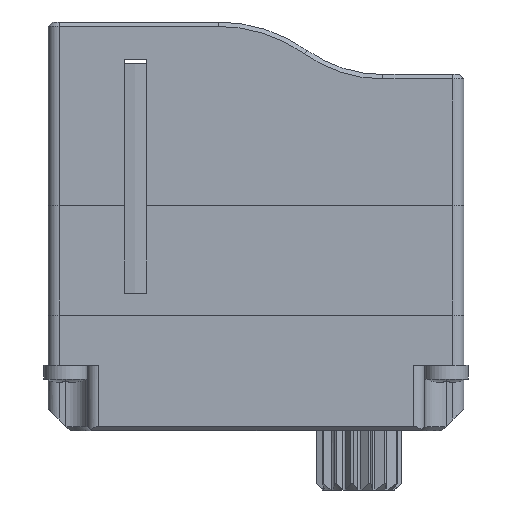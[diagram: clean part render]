
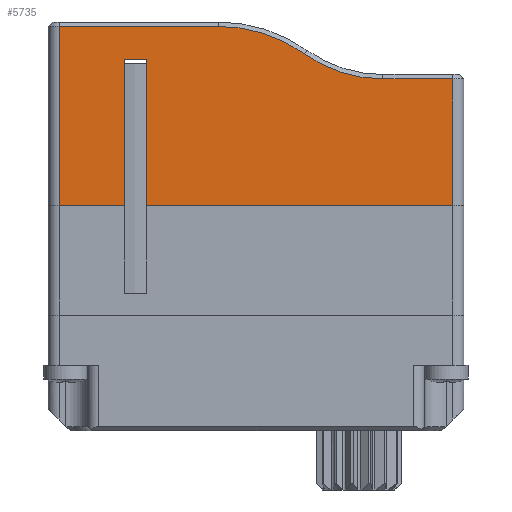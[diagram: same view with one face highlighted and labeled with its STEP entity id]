
A CAD part, front view. The second image highlights one B-rep face of the part: STEP entity #5735.
In plain terms, the highlighted planar face has unit normal (0, -1, 0).
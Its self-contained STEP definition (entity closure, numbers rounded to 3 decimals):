
#74 = CARTESIAN_POINT ( 'NONE',  ( -9.64, -3.174, 22. ) ) ;
#170 = AXIS2_PLACEMENT_3D ( 'NONE', #1020, #7273, #7191 ) ;
#490 = CARTESIAN_POINT ( 'NONE',  ( -5.366, -3.174, 30.2 ) ) ;
#846 = EDGE_CURVE ( 'NONE', #4130, #5648, #9853, .T. ) ;
#1020 = CARTESIAN_POINT ( 'NONE',  ( 2.16, -3.174, 34. ) ) ;
#1178 = DIRECTION ( 'NONE',  ( 0., 1., 0. ) ) ;
#1337 = VECTOR ( 'NONE', #9775, 1000. ) ;
#1618 = DIRECTION ( 'NONE',  ( 0., 0., -1. ) ) ;
#1904 = VERTEX_POINT ( 'NONE', #3824 ) ;
#2018 = DIRECTION ( 'NONE',  ( 0., 0., -1. ) ) ;
#2264 = VECTOR ( 'NONE', #1618, 1000. ) ;
#2331 = AXIS2_PLACEMENT_3D ( 'NONE', #11576, #1178, #11675 ) ;
#2524 = ORIENTED_EDGE ( 'NONE', *, *, #11348, .F. ) ;
#2992 = PLANE ( 'NONE',  #2331 ) ;
#3026 = EDGE_CURVE ( 'NONE', #4721, #5648, #12978, .T. ) ;
#3162 = LINE ( 'NONE', #11927, #5643 ) ;
#3539 = ORIENTED_EDGE ( 'NONE', *, *, #7090, .T. ) ;
#3730 = ORIENTED_EDGE ( 'NONE', *, *, #9316, .T. ) ;
#3824 = CARTESIAN_POINT ( 'NONE',  ( 5.36, -3.174, 27.8 ) ) ;
#3879 = CARTESIAN_POINT ( 'NONE',  ( -12.64, -3.174, 22. ) ) ;
#4130 = VERTEX_POINT ( 'NONE', #74 ) ;
#4321 = CARTESIAN_POINT ( 'NONE',  ( -12.64, -3.174, 30.2 ) ) ;
#4721 = VERTEX_POINT ( 'NONE', #4321 ) ;
#4792 = EDGE_CURVE ( 'NONE', #10760, #7300, #3162, .T. ) ;
#4873 = CARTESIAN_POINT ( 'NONE',  ( -5.366, -3.174, 23.4 ) ) ;
#4977 = EDGE_CURVE ( 'NONE', #6024, #10931, #9065, .T. ) ;
#5001 = VECTOR ( 'NONE', #8052, 1000. ) ;
#5007 = CARTESIAN_POINT ( 'NONE',  ( -8.64, -3.174, 28.7 ) ) ;
#5128 = DIRECTION ( 'NONE',  ( 0., 0., -1. ) ) ;
#5323 = ORIENTED_EDGE ( 'NONE', *, *, #846, .F. ) ;
#5337 = ORIENTED_EDGE ( 'NONE', *, *, #9858, .F. ) ;
#5643 = VECTOR ( 'NONE', #11975, 1000. ) ;
#5648 = VERTEX_POINT ( 'NONE', #3879 ) ;
#5735 = ADVANCED_FACE ( 'NONE', ( #11003 ), #2992, .F. ) ;
#5776 = CIRCLE ( 'NONE', #170, 6.2 ) ;
#5914 = VECTOR ( 'NONE', #2018, 1000. ) ;
#5954 = DIRECTION ( 'NONE',  ( 0., 0., 1. ) ) ;
#5983 = ORIENTED_EDGE ( 'NONE', *, *, #7315, .T. ) ;
#6011 = DIRECTION ( 'NONE',  ( -1., 0., 0. ) ) ;
#6024 = VERTEX_POINT ( 'NONE', #13330 ) ;
#6530 = VERTEX_POINT ( 'NONE', #12824 ) ;
#6716 = DIRECTION ( 'NONE',  ( -1., 0., 0. ) ) ;
#6773 = CARTESIAN_POINT ( 'NONE',  ( -8.64, -3.174, 28.7 ) ) ;
#6816 = EDGE_CURVE ( 'NONE', #6530, #6024, #5776, .T. ) ;
#7090 = EDGE_CURVE ( 'NONE', #10760, #1904, #10194, .T. ) ;
#7191 = DIRECTION ( 'NONE',  ( 0., 0., 1. ) ) ;
#7273 = DIRECTION ( 'NONE',  ( 0., 1., 0. ) ) ;
#7300 = VERTEX_POINT ( 'NONE', #11128 ) ;
#7315 = EDGE_CURVE ( 'NONE', #10931, #4721, #7876, .T. ) ;
#7341 = VERTEX_POINT ( 'NONE', #6773 ) ;
#7707 = LINE ( 'NONE', #11247, #5914 ) ;
#7795 = EDGE_LOOP ( 'NONE', ( #3539, #3730, #7914, #9587, #5983, #12788, #5323, #2524, #5337, #12175, #8979 ) ) ;
#7804 = LINE ( 'NONE', #12196, #5001 ) ;
#7876 = LINE ( 'NONE', #10999, #13146 ) ;
#7914 = ORIENTED_EDGE ( 'NONE', *, *, #6816, .T. ) ;
#8008 = DIRECTION ( 'NONE',  ( 0., -1., 0. ) ) ;
#8052 = DIRECTION ( 'NONE',  ( -1., 0., 0. ) ) ;
#8158 = CARTESIAN_POINT ( 'NONE',  ( 2.16, -3.174, 27.8 ) ) ;
#8445 = VECTOR ( 'NONE', #5128, 1000. ) ;
#8979 = ORIENTED_EDGE ( 'NONE', *, *, #4792, .F. ) ;
#9065 = CIRCLE ( 'NONE', #9904, 6.8 ) ;
#9316 = EDGE_CURVE ( 'NONE', #1904, #6530, #12447, .T. ) ;
#9587 = ORIENTED_EDGE ( 'NONE', *, *, #4977, .T. ) ;
#9775 = DIRECTION ( 'NONE',  ( 0., 0., 1. ) ) ;
#9853 = LINE ( 'NONE', #10898, #12645 ) ;
#9858 = EDGE_CURVE ( 'NONE', #7341, #11444, #7804, .T. ) ;
#9866 = CARTESIAN_POINT ( 'NONE',  ( -9.64, -3.174, 28.7 ) ) ;
#9904 = AXIS2_PLACEMENT_3D ( 'NONE', #4873, #8008, #5954 ) ;
#10028 = EDGE_CURVE ( 'NONE', #7341, #7300, #10406, .T. ) ;
#10194 = LINE ( 'NONE', #10909, #1337 ) ;
#10406 = LINE ( 'NONE', #5007, #8445 ) ;
#10493 = CARTESIAN_POINT ( 'NONE',  ( 5.36, -3.174, 22. ) ) ;
#10760 = VERTEX_POINT ( 'NONE', #10493 ) ;
#10898 = CARTESIAN_POINT ( 'NONE',  ( -9.64, -3.174, 22. ) ) ;
#10909 = CARTESIAN_POINT ( 'NONE',  ( 5.36, -3.174, 23.2 ) ) ;
#10931 = VERTEX_POINT ( 'NONE', #490 ) ;
#10963 = CARTESIAN_POINT ( 'NONE',  ( -12.64, -3.174, 23.2 ) ) ;
#10999 = CARTESIAN_POINT ( 'NONE',  ( -13.14, -3.174, 30.2 ) ) ;
#11003 = FACE_OUTER_BOUND ( 'NONE', #7795, .T. ) ;
#11111 = VECTOR ( 'NONE', #6011, 1000. ) ;
#11128 = CARTESIAN_POINT ( 'NONE',  ( -8.64, -3.174, 22. ) ) ;
#11247 = CARTESIAN_POINT ( 'NONE',  ( -9.64, -3.174, 28.7 ) ) ;
#11348 = EDGE_CURVE ( 'NONE', #11444, #4130, #7707, .T. ) ;
#11444 = VERTEX_POINT ( 'NONE', #9866 ) ;
#11576 = CARTESIAN_POINT ( 'NONE',  ( -13.14, -3.174, 23.2 ) ) ;
#11675 = DIRECTION ( 'NONE',  ( 0., 0., 1. ) ) ;
#11927 = CARTESIAN_POINT ( 'NONE',  ( 5.36, -3.174, 22. ) ) ;
#11975 = DIRECTION ( 'NONE',  ( -1., 0., 0. ) ) ;
#12175 = ORIENTED_EDGE ( 'NONE', *, *, #10028, .T. ) ;
#12196 = CARTESIAN_POINT ( 'NONE',  ( -8.64, -3.174, 28.7 ) ) ;
#12298 = DIRECTION ( 'NONE',  ( -1., 0., 0. ) ) ;
#12447 = LINE ( 'NONE', #8158, #11111 ) ;
#12645 = VECTOR ( 'NONE', #6716, 1000. ) ;
#12788 = ORIENTED_EDGE ( 'NONE', *, *, #3026, .T. ) ;
#12824 = CARTESIAN_POINT ( 'NONE',  ( 2.16, -3.174, 27.8 ) ) ;
#12978 = LINE ( 'NONE', #10963, #2264 ) ;
#13146 = VECTOR ( 'NONE', #12298, 1000. ) ;
#13330 = CARTESIAN_POINT ( 'NONE',  ( -1.429, -3.174, 28.945 ) ) ;
